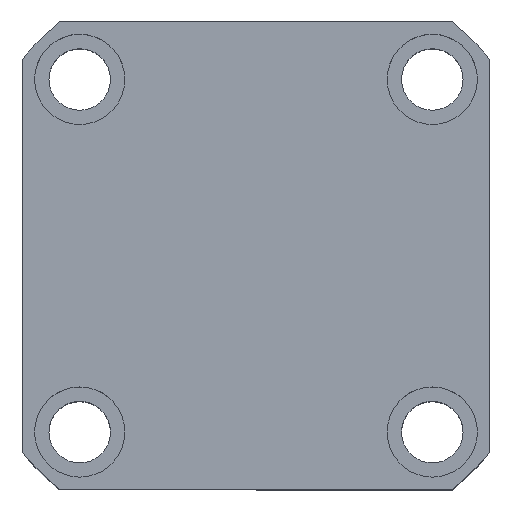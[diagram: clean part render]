
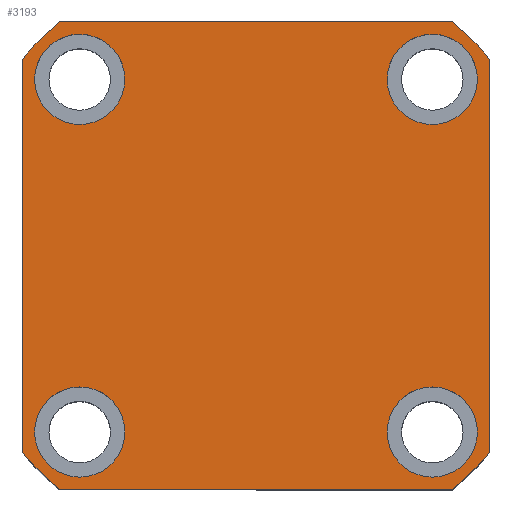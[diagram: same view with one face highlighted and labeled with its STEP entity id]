
A CAD part, top view. The second image highlights one B-rep face of the part: STEP entity #3193.
In plain terms, the highlighted planar face has unit normal (0, 0, 1) as drawn and (0, 0, -1) by its records, which use the part's own axes.
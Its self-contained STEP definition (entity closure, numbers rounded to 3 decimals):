
#28 = ORIENTED_EDGE ( 'NONE', *, *, #2292, .F. ) ;
#282 = CARTESIAN_POINT ( 'NONE',  ( -57., 57., 0. ) ) ;
#363 = CARTESIAN_POINT ( 'NONE',  ( -54., -43., 0. ) ) ;
#448 = VERTEX_POINT ( 'NONE', #5479 ) ;
#474 = AXIS2_PLACEMENT_3D ( 'NONE', #20180, #10694, #1257 ) ;
#552 = CIRCLE ( 'NONE', #19256, 74.5 ) ;
#778 = VERTEX_POINT ( 'NONE', #8074 ) ;
#868 = AXIS2_PLACEMENT_3D ( 'NONE', #1625, #12659, #3196 ) ;
#946 = EDGE_CURVE ( 'NONE', #3252, #448, #16417, .T. ) ;
#1023 = VERTEX_POINT ( 'NONE', #7968 ) ;
#1147 = EDGE_CURVE ( 'NONE', #15551, #13681, #2815, .T. ) ;
#1229 = LINE ( 'NONE', #5855, #4940 ) ;
#1257 = DIRECTION ( 'NONE',  ( 1., 0., 0. ) ) ;
#1291 = VERTEX_POINT ( 'NONE', #11669 ) ;
#1394 = CARTESIAN_POINT ( 'NONE',  ( -57., 57., 0. ) ) ;
#1499 = EDGE_CURVE ( 'NONE', #13681, #6044, #17648, .T. ) ;
#1588 = EDGE_CURVE ( 'NONE', #10443, #17314, #12426, .T. ) ;
#1592 = DIRECTION ( 'NONE',  ( 0., 0., -1. ) ) ;
#1625 = CARTESIAN_POINT ( 'NONE',  ( 43., 43., 0. ) ) ;
#1864 = EDGE_CURVE ( 'NONE', #1023, #4855, #7242, .T. ) ;
#1930 = DIRECTION ( 'NONE',  ( 0., -1., 0. ) ) ;
#1959 = CIRCLE ( 'NONE', #16721, 11. ) ;
#2270 = AXIS2_PLACEMENT_3D ( 'NONE', #5740, #16787, #7319 ) ;
#2292 = EDGE_CURVE ( 'NONE', #448, #3252, #12682, .T. ) ;
#2602 = FACE_BOUND ( 'NONE', #14869, .T. ) ;
#2654 = AXIS2_PLACEMENT_3D ( 'NONE', #14802, #5322, #16366 ) ;
#2815 = LINE ( 'NONE', #16136, #20123 ) ;
#3046 = CIRCLE ( 'NONE', #2270, 74.5 ) ;
#3193 = ADVANCED_FACE ( 'NONE', ( #15194, #6791, #7280, #2602, #18917 ), #7916, .F. ) ;
#3196 = DIRECTION ( 'NONE',  ( -1., 0., 0. ) ) ;
#3252 = VERTEX_POINT ( 'NONE', #11366 ) ;
#3712 = CARTESIAN_POINT ( 'NONE',  ( -43., -43., 0. ) ) ;
#3843 = CARTESIAN_POINT ( 'NONE',  ( 32., 43., 0. ) ) ;
#4805 = DIRECTION ( 'NONE',  ( 0., 0., -1. ) ) ;
#4855 = VERTEX_POINT ( 'NONE', #12936 ) ;
#4940 = VECTOR ( 'NONE', #7429, 1000. ) ;
#5302 = DIRECTION ( 'NONE',  ( -1., 0., 0. ) ) ;
#5321 = ORIENTED_EDGE ( 'NONE', *, *, #15522, .F. ) ;
#5322 = DIRECTION ( 'NONE',  ( 0., 0., 1. ) ) ;
#5355 = AXIS2_PLACEMENT_3D ( 'NONE', #3712, #14784, #5302 ) ;
#5479 = CARTESIAN_POINT ( 'NONE',  ( 32., -43., 0. ) ) ;
#5740 = CARTESIAN_POINT ( 'NONE',  ( 0., 0., 0. ) ) ;
#5797 = EDGE_CURVE ( 'NONE', #1291, #15551, #3046, .T. ) ;
#5855 = CARTESIAN_POINT ( 'NONE',  ( 57., 57., 0. ) ) ;
#5886 = CIRCLE ( 'NONE', #5355, 11. ) ;
#6044 = VERTEX_POINT ( 'NONE', #18793 ) ;
#6144 = CARTESIAN_POINT ( 'NONE',  ( -57., 47.971, 0. ) ) ;
#6388 = DIRECTION ( 'NONE',  ( 1., 0., 0. ) ) ;
#6577 = EDGE_CURVE ( 'NONE', #13075, #10443, #14441, .T. ) ;
#6646 = DIRECTION ( 'NONE',  ( 1., 0., 0. ) ) ;
#6653 = VERTEX_POINT ( 'NONE', #11699 ) ;
#6658 = AXIS2_PLACEMENT_3D ( 'NONE', #12689, #15871, #6388 ) ;
#6791 = FACE_BOUND ( 'NONE', #11412, .T. ) ;
#7072 = CARTESIAN_POINT ( 'NONE',  ( 43., -43., 0. ) ) ;
#7198 = ORIENTED_EDGE ( 'NONE', *, *, #15926, .F. ) ;
#7242 = CIRCLE ( 'NONE', #12053, 11. ) ;
#7280 = FACE_BOUND ( 'NONE', #10230, .T. ) ;
#7319 = DIRECTION ( 'NONE',  ( 1., 0., 0. ) ) ;
#7429 = DIRECTION ( 'NONE',  ( 0., 1., 0. ) ) ;
#7623 = DIRECTION ( 'NONE',  ( 0., 0., -1. ) ) ;
#7807 = CARTESIAN_POINT ( 'NONE',  ( -43., -43., 0. ) ) ;
#7916 = PLANE ( 'NONE',  #6658 ) ;
#7948 = EDGE_LOOP ( 'NONE', ( #16605, #9680 ) ) ;
#7968 = CARTESIAN_POINT ( 'NONE',  ( -32., 43., 0. ) ) ;
#8074 = CARTESIAN_POINT ( 'NONE',  ( 54., 43., 0. ) ) ;
#8268 = CARTESIAN_POINT ( 'NONE',  ( -47.971, -57., 0. ) ) ;
#8670 = DIRECTION ( 'NONE',  ( -1., 0., 0. ) ) ;
#8899 = EDGE_CURVE ( 'NONE', #6044, #13075, #1229, .T. ) ;
#9293 = CIRCLE ( 'NONE', #12214, 11. ) ;
#9311 = CARTESIAN_POINT ( 'NONE',  ( 43., 43., 0. ) ) ;
#9332 = DIRECTION ( 'NONE',  ( 0., 0., 1. ) ) ;
#9404 = DIRECTION ( 'NONE',  ( -1., 0., 0. ) ) ;
#9431 = CARTESIAN_POINT ( 'NONE',  ( 57., 47.971, 0. ) ) ;
#9680 = ORIENTED_EDGE ( 'NONE', *, *, #17446, .F. ) ;
#9691 = AXIS2_PLACEMENT_3D ( 'NONE', #14277, #4805, #15847 ) ;
#10230 = EDGE_LOOP ( 'NONE', ( #18543, #20472 ) ) ;
#10443 = VERTEX_POINT ( 'NONE', #12188 ) ;
#10694 = DIRECTION ( 'NONE',  ( 0., 0., 1. ) ) ;
#10872 = VECTOR ( 'NONE', #1930, 1000. ) ;
#10889 = DIRECTION ( 'NONE',  ( -1., 0., 0. ) ) ;
#11017 = CARTESIAN_POINT ( 'NONE',  ( -43., 43., 0. ) ) ;
#11362 = CARTESIAN_POINT ( 'NONE',  ( -47.971, 57., 0. ) ) ;
#11366 = CARTESIAN_POINT ( 'NONE',  ( 54., -43., 0. ) ) ;
#11412 = EDGE_LOOP ( 'NONE', ( #28, #11545 ) ) ;
#11545 = ORIENTED_EDGE ( 'NONE', *, *, #946, .F. ) ;
#11666 = AXIS2_PLACEMENT_3D ( 'NONE', #7072, #18153, #8670 ) ;
#11669 = CARTESIAN_POINT ( 'NONE',  ( -57., -47.971, 0. ) ) ;
#11699 = CARTESIAN_POINT ( 'NONE',  ( -32., -43., 0. ) ) ;
#12053 = AXIS2_PLACEMENT_3D ( 'NONE', #11017, #1592, #12619 ) ;
#12188 = CARTESIAN_POINT ( 'NONE',  ( 47.971, 57., 0. ) ) ;
#12214 = AXIS2_PLACEMENT_3D ( 'NONE', #9311, #20382, #10889 ) ;
#12420 = DIRECTION ( 'NONE',  ( -1., 0., 0. ) ) ;
#12426 = LINE ( 'NONE', #1394, #17139 ) ;
#12437 = CARTESIAN_POINT ( 'NONE',  ( 47.971, -57., 0. ) ) ;
#12537 = ORIENTED_EDGE ( 'NONE', *, *, #6577, .F. ) ;
#12619 = DIRECTION ( 'NONE',  ( -1., 0., 0. ) ) ;
#12659 = DIRECTION ( 'NONE',  ( 0., 0., -1. ) ) ;
#12682 = CIRCLE ( 'NONE', #11666, 11. ) ;
#12689 = CARTESIAN_POINT ( 'NONE',  ( 0., 0., 0. ) ) ;
#12791 = ORIENTED_EDGE ( 'NONE', *, *, #8899, .F. ) ;
#12934 = ORIENTED_EDGE ( 'NONE', *, *, #1864, .F. ) ;
#12936 = CARTESIAN_POINT ( 'NONE',  ( -54., 43., 0. ) ) ;
#13075 = VERTEX_POINT ( 'NONE', #9431 ) ;
#13395 = VERTEX_POINT ( 'NONE', #3843 ) ;
#13681 = VERTEX_POINT ( 'NONE', #12437 ) ;
#13761 = EDGE_CURVE ( 'NONE', #17343, #6653, #13915, .T. ) ;
#13818 = ORIENTED_EDGE ( 'NONE', *, *, #1147, .F. ) ;
#13887 = ORIENTED_EDGE ( 'NONE', *, *, #5797, .F. ) ;
#13915 = CIRCLE ( 'NONE', #16014, 11. ) ;
#14114 = EDGE_LOOP ( 'NONE', ( #12537, #12791, #17766, #13818, #13887, #5321, #7198, #16224 ) ) ;
#14277 = CARTESIAN_POINT ( 'NONE',  ( 43., -43., 0. ) ) ;
#14441 = CIRCLE ( 'NONE', #2654, 74.5 ) ;
#14784 = DIRECTION ( 'NONE',  ( 0., 0., -1. ) ) ;
#14802 = CARTESIAN_POINT ( 'NONE',  ( 0., 0., 0. ) ) ;
#14869 = EDGE_LOOP ( 'NONE', ( #15323, #12934 ) ) ;
#15194 = FACE_BOUND ( 'NONE', #7948, .T. ) ;
#15323 = ORIENTED_EDGE ( 'NONE', *, *, #16532, .F. ) ;
#15522 = EDGE_CURVE ( 'NONE', #18151, #1291, #20293, .T. ) ;
#15551 = VERTEX_POINT ( 'NONE', #8268 ) ;
#15847 = DIRECTION ( 'NONE',  ( -1., 0., 0. ) ) ;
#15871 = DIRECTION ( 'NONE',  ( 0., 0., 1. ) ) ;
#15926 = EDGE_CURVE ( 'NONE', #17314, #18151, #552, .T. ) ;
#15999 = EDGE_CURVE ( 'NONE', #778, #13395, #17516, .T. ) ;
#16014 = AXIS2_PLACEMENT_3D ( 'NONE', #7807, #18890, #9404 ) ;
#16136 = CARTESIAN_POINT ( 'NONE',  ( -57., -57., 0. ) ) ;
#16224 = ORIENTED_EDGE ( 'NONE', *, *, #1588, .F. ) ;
#16366 = DIRECTION ( 'NONE',  ( 1., 0., 0. ) ) ;
#16417 = CIRCLE ( 'NONE', #9691, 11. ) ;
#16532 = EDGE_CURVE ( 'NONE', #4855, #1023, #1959, .T. ) ;
#16605 = ORIENTED_EDGE ( 'NONE', *, *, #13761, .F. ) ;
#16721 = AXIS2_PLACEMENT_3D ( 'NONE', #17089, #7623, #18692 ) ;
#16787 = DIRECTION ( 'NONE',  ( 0., 0., 1. ) ) ;
#17089 = CARTESIAN_POINT ( 'NONE',  ( -43., 43., 0. ) ) ;
#17139 = VECTOR ( 'NONE', #12420, 1000. ) ;
#17314 = VERTEX_POINT ( 'NONE', #11362 ) ;
#17343 = VERTEX_POINT ( 'NONE', #363 ) ;
#17446 = EDGE_CURVE ( 'NONE', #6653, #17343, #5886, .T. ) ;
#17516 = CIRCLE ( 'NONE', #868, 11. ) ;
#17648 = CIRCLE ( 'NONE', #474, 74.5 ) ;
#17766 = ORIENTED_EDGE ( 'NONE', *, *, #1499, .F. ) ;
#18151 = VERTEX_POINT ( 'NONE', #6144 ) ;
#18153 = DIRECTION ( 'NONE',  ( 0., 0., -1. ) ) ;
#18543 = ORIENTED_EDGE ( 'NONE', *, *, #19883, .F. ) ;
#18692 = DIRECTION ( 'NONE',  ( -1., 0., 0. ) ) ;
#18793 = CARTESIAN_POINT ( 'NONE',  ( 57., -47.971, 0. ) ) ;
#18819 = CARTESIAN_POINT ( 'NONE',  ( 0., 0., 0. ) ) ;
#18890 = DIRECTION ( 'NONE',  ( 0., 0., -1. ) ) ;
#18917 = FACE_OUTER_BOUND ( 'NONE', #14114, .T. ) ;
#19256 = AXIS2_PLACEMENT_3D ( 'NONE', #18819, #9332, #20400 ) ;
#19883 = EDGE_CURVE ( 'NONE', #13395, #778, #9293, .T. ) ;
#20123 = VECTOR ( 'NONE', #6646, 1000. ) ;
#20180 = CARTESIAN_POINT ( 'NONE',  ( 0., 0., 0. ) ) ;
#20293 = LINE ( 'NONE', #282, #10872 ) ;
#20382 = DIRECTION ( 'NONE',  ( 0., 0., -1. ) ) ;
#20400 = DIRECTION ( 'NONE',  ( 1., 0., 0. ) ) ;
#20472 = ORIENTED_EDGE ( 'NONE', *, *, #15999, .F. ) ;
